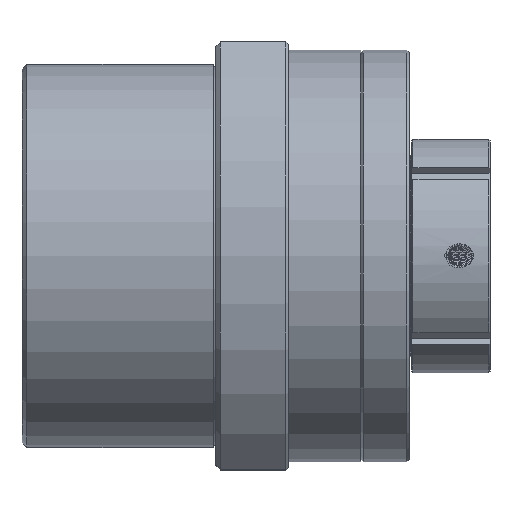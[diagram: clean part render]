
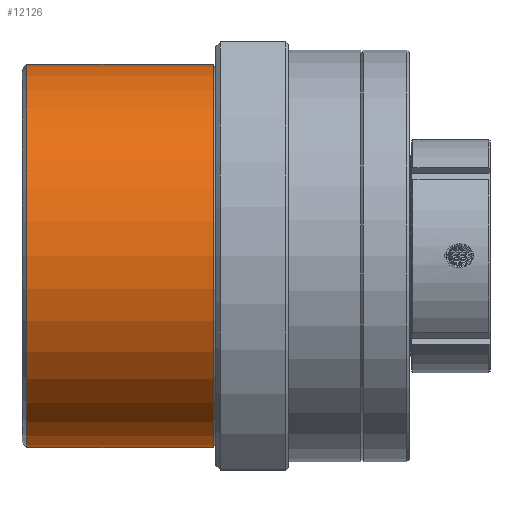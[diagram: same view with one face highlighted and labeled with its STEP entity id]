
A CAD part, top view. The second image highlights one B-rep face of the part: STEP entity #12126.
In plain terms, the highlighted cylindrical face has radius 47.5 mm (diameter 95 mm), a full revolution.
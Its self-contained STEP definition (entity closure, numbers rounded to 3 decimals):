
#7644=EDGE_CURVE('',#18178,#18178,#18179,.T.);
#10386=EDGE_CURVE('',#22146,#22146,#22147,.T.);
#12126=ADVANCED_FACE('',(#24521,#24522),#24523,.T.);
#18178=VERTEX_POINT('',#36264);
#18179=CIRCLE('',#36265,47.5);
#22146=VERTEX_POINT('',#44634);
#22147=CIRCLE('',#44635,47.5);
#24521=FACE_OUTER_BOUND('',#50020,.T.);
#24522=FACE_OUTER_BOUND('',#50021,.T.);
#24523=CYLINDRICAL_SURFACE('',#50022,47.5);
#36264=CARTESIAN_POINT('',(47.4,0.0,47.5));
#36265=AXIS2_PLACEMENT_3D('',#56819,#56820,#56821);
#44634=CARTESIAN_POINT('',(1.2,0.0,47.5));
#44635=AXIS2_PLACEMENT_3D('',#61959,#61960,#61961);
#50020=EDGE_LOOP('',(#65025));
#50021=EDGE_LOOP('',(#65026));
#50022=AXIS2_PLACEMENT_3D('',#65027,#65028,#65029);
#56819=CARTESIAN_POINT('',(47.4,0.0,0.0));
#56820=DIRECTION('',(1.0,0.0,-0.0));
#56821=DIRECTION('',(0.0,0.0,1.0));
#61959=CARTESIAN_POINT('',(1.2,0.0,0.0));
#61960=DIRECTION('',(1.0,0.0,-0.0));
#61961=DIRECTION('',(0.0,0.0,1.0));
#65025=ORIENTED_EDGE('',*,*,#10386,.T.);
#65026=ORIENTED_EDGE('',*,*,#7644,.F.);
#65027=CARTESIAN_POINT('',(24.3,0.0,0.0));
#65028=DIRECTION('',(-1.0,0.0,0.0));
#65029=DIRECTION('',(0.0,0.0,1.0));
